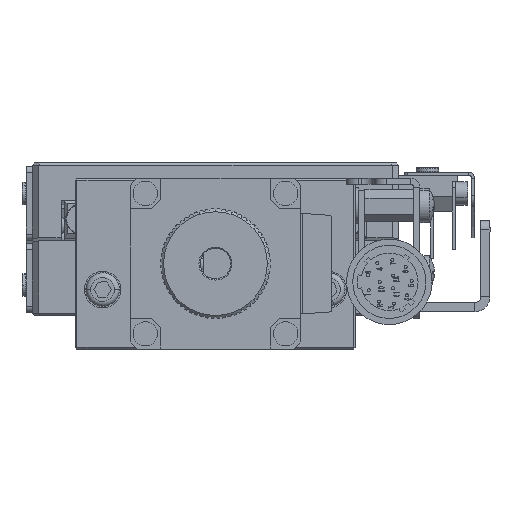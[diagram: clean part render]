
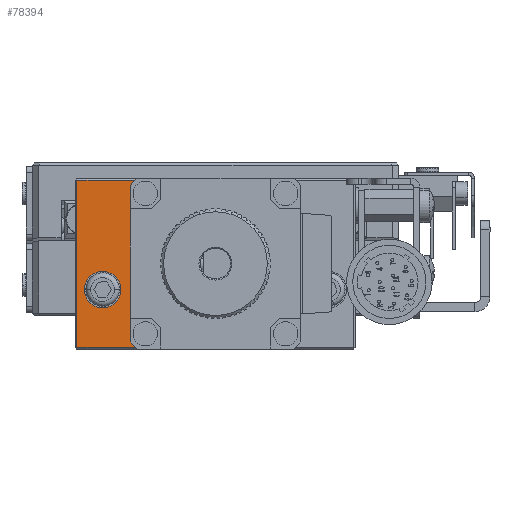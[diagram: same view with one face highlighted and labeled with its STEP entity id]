
A CAD part, left-side view. The second image highlights one B-rep face of the part: STEP entity #78394.
In plain terms, the highlighted planar face has unit normal (-1, 0, 0).
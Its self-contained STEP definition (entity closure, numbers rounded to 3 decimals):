
#4166 = CARTESIAN_POINT ( 'NONE',  ( -63., 49.665, -28.7 ) ) ;
#4763 = VERTEX_POINT ( 'NONE', #80705 ) ;
#5217 = VERTEX_POINT ( 'NONE', #89421 ) ;
#7858 = CARTESIAN_POINT ( 'NONE',  ( -63., 52., -19.25 ) ) ;
#14216 = CARTESIAN_POINT ( 'NONE',  ( -63., 49.665, -1.3 ) ) ;
#16094 = EDGE_CURVE ( 'NONE', #19674, #5217, #69643, .T. ) ;
#17727 = DIRECTION ( 'NONE',  ( 1., 0., 0. ) ) ;
#18667 = CARTESIAN_POINT ( 'NONE',  ( -63., 36.5, -15. ) ) ;
#19409 = DIRECTION ( 'NONE',  ( 0., 0., 1. ) ) ;
#19674 = VERTEX_POINT ( 'NONE', #14216 ) ;
#22789 = LINE ( 'NONE', #61607, #89252 ) ;
#28898 = DIRECTION ( 'NONE',  ( -1., 0., 0. ) ) ;
#29819 = CARTESIAN_POINT ( 'NONE',  ( -63., 36.5, -1.3 ) ) ;
#30019 = EDGE_CURVE ( 'NONE', #49976, #19674, #92409, .T. ) ;
#30822 = CARTESIAN_POINT ( 'NONE',  ( -63., 50.5, -2.155 ) ) ;
#31253 = CIRCLE ( 'NONE', #127520, 3. ) ;
#31429 = ORIENTED_EDGE ( 'NONE', *, *, #30019, .T. ) ;
#32567 = ORIENTED_EDGE ( 'NONE', *, *, #59626, .F. ) ;
#35917 = VERTEX_POINT ( 'NONE', #4166 ) ;
#36507 = ORIENTED_EDGE ( 'NONE', *, *, #16094, .T. ) ;
#40699 = AXIS2_PLACEMENT_3D ( 'NONE', #131663, #122324, #57189 ) ;
#41711 = FACE_BOUND ( 'NONE', #119907, .T. ) ;
#42488 = VECTOR ( 'NONE', #129928, 1000. ) ;
#42540 = AXIS2_PLACEMENT_3D ( 'NONE', #91126, #17727, #70159 ) ;
#43329 = ORIENTED_EDGE ( 'NONE', *, *, #58023, .T. ) ;
#44295 = VERTEX_POINT ( 'NONE', #110548 ) ;
#49976 = VERTEX_POINT ( 'NONE', #30822 ) ;
#55042 = VERTEX_POINT ( 'NONE', #64487 ) ;
#57189 = DIRECTION ( 'NONE',  ( 0., -1., 0. ) ) ;
#58023 = EDGE_CURVE ( 'NONE', #55042, #35917, #126214, .T. ) ;
#58316 = AXIS2_PLACEMENT_3D ( 'NONE', #122388, #122837, #68421 ) ;
#59626 = EDGE_CURVE ( 'NONE', #4763, #127675, #31253, .T. ) ;
#61607 = CARTESIAN_POINT ( 'NONE',  ( -63., 50.5, -27.845 ) ) ;
#64487 = CARTESIAN_POINT ( 'NONE',  ( -63., 59.2, -28.7 ) ) ;
#64692 = ORIENTED_EDGE ( 'NONE', *, *, #128501, .T. ) ;
#67548 = AXIS2_PLACEMENT_3D ( 'NONE', #18667, #28898, #114445 ) ;
#68009 = VECTOR ( 'NONE', #114574, 1000. ) ;
#68421 = DIRECTION ( 'NONE',  ( 0., 0., -1. ) ) ;
#69643 = LINE ( 'NONE', #29819, #81113 ) ;
#70159 = DIRECTION ( 'NONE',  ( 0., 1., 0. ) ) ;
#70706 = LINE ( 'NONE', #109061, #42488 ) ;
#71064 = PLANE ( 'NONE',  #42540 ) ;
#75939 = CARTESIAN_POINT ( 'NONE',  ( -63., 55., -19.25 ) ) ;
#76391 = DIRECTION ( 'NONE',  ( 0., -1., 0. ) ) ;
#78298 = EDGE_CURVE ( 'NONE', #127675, #4763, #113101, .T. ) ;
#78394 = ADVANCED_FACE ( 'NONE', ( #126552, #41711 ), #71064, .F. ) ;
#78987 = ORIENTED_EDGE ( 'NONE', *, *, #126539, .F. ) ;
#80705 = CARTESIAN_POINT ( 'NONE',  ( -63., 58., -19.25 ) ) ;
#81113 = VECTOR ( 'NONE', #123751, 1000. ) ;
#81949 = CARTESIAN_POINT ( 'NONE',  ( -63., 36.5, -28.7 ) ) ;
#89252 = VECTOR ( 'NONE', #19409, 1000. ) ;
#89421 = CARTESIAN_POINT ( 'NONE',  ( -63., 59.2, -1.3 ) ) ;
#91126 = CARTESIAN_POINT ( 'NONE',  ( -63., 36.5, -15. ) ) ;
#91457 = ORIENTED_EDGE ( 'NONE', *, *, #78298, .F. ) ;
#92409 = CIRCLE ( 'NONE', #58316, 19. ) ;
#100842 = EDGE_CURVE ( 'NONE', #5217, #55042, #70706, .T. ) ;
#109061 = CARTESIAN_POINT ( 'NONE',  ( -63., 59.2, -15. ) ) ;
#110548 = CARTESIAN_POINT ( 'NONE',  ( -63., 50.5, -27.845 ) ) ;
#113101 = CIRCLE ( 'NONE', #40699, 3. ) ;
#114445 = DIRECTION ( 'NONE',  ( 0., 0., -1. ) ) ;
#114574 = DIRECTION ( 'NONE',  ( 0., -1., 0. ) ) ;
#114773 = ORIENTED_EDGE ( 'NONE', *, *, #100842, .T. ) ;
#119907 = EDGE_LOOP ( 'NONE', ( #91457, #32567 ) ) ;
#122324 = DIRECTION ( 'NONE',  ( -1., 0., 0. ) ) ;
#122388 = CARTESIAN_POINT ( 'NONE',  ( -63., 36.5, -15. ) ) ;
#122837 = DIRECTION ( 'NONE',  ( 1., 0., 0. ) ) ;
#123751 = DIRECTION ( 'NONE',  ( 0., 1., 0. ) ) ;
#124484 = CIRCLE ( 'NONE', #67548, 19. ) ;
#126214 = LINE ( 'NONE', #81949, #68009 ) ;
#126539 = EDGE_CURVE ( 'NONE', #44295, #35917, #124484, .T. ) ;
#126552 = FACE_OUTER_BOUND ( 'NONE', #135646, .T. ) ;
#127520 = AXIS2_PLACEMENT_3D ( 'NONE', #75939, #127602, #76391 ) ;
#127602 = DIRECTION ( 'NONE',  ( -1., 0., 0. ) ) ;
#127675 = VERTEX_POINT ( 'NONE', #7858 ) ;
#128501 = EDGE_CURVE ( 'NONE', #44295, #49976, #22789, .T. ) ;
#129928 = DIRECTION ( 'NONE',  ( 0., 0., -1. ) ) ;
#131663 = CARTESIAN_POINT ( 'NONE',  ( -63., 55., -19.25 ) ) ;
#135646 = EDGE_LOOP ( 'NONE', ( #31429, #36507, #114773, #43329, #78987, #64692 ) ) ;
